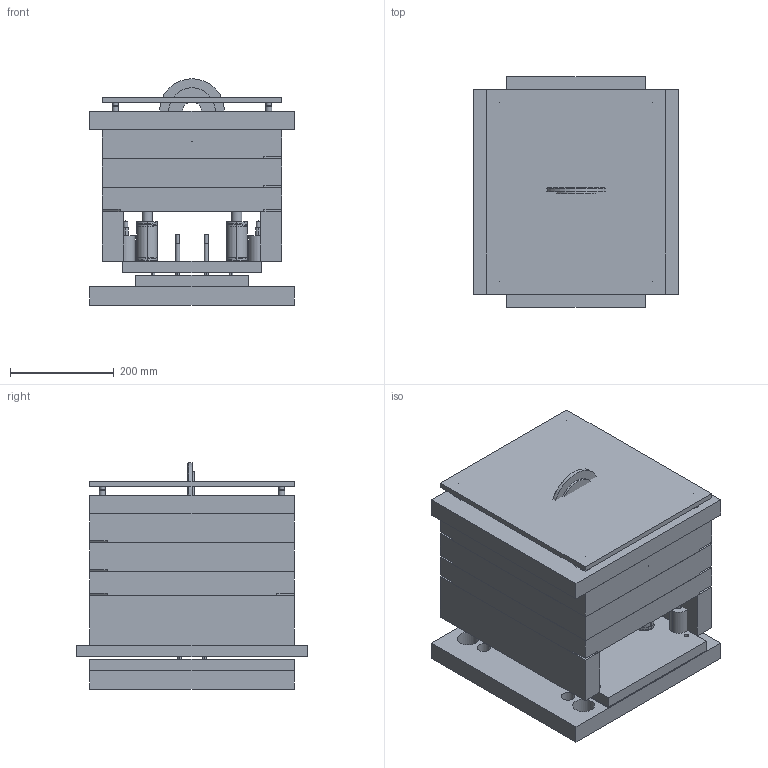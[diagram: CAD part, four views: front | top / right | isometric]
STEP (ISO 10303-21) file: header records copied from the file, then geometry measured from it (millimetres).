
FILE_DESCRIPTION(('Open CASCADE Model'),'2;1');
FILE_NAME('Open CASCADE Shape Model','2026-07-13T21:25:44',('Author'),( 'Open CASCADE'),'Open CASCADE STEP processor 7.9','Open CASCADE 7.9' ,'Unknown');
FILE_SCHEMA(('AUTOMOTIVE_DESIGN { 1 0 10303 214 1 1 1 1 }'));
Length unit declared in the file: millimetre
Products named in the file (76): mold_builder_assembly; Fixed_Half; cavity_plate; clamp_fixed; guide_pin_0; guide_pin_1; guide_pin_2; guide_pin_3; guide_bushing_0; guide_bushing_1; guide_bushing_2; guide_bushing_3; screw_top_0; screw_top_1; screw_top_2; screw_top_3; dowel_pin_0; dowel_pin_1; insulation_plate; sprue_bushing; locating_ring; gate_0; slide_1_K2528; Moving_Half; clamp_moving; support_plate; core_plate; spacer_block; support_pillar_0; support_pillar_1; support_pillar_2; support_pillar_3; screw_bot_0; screw_bot_1; screw_bot_2; screw_bot_3; cooling_channel_0; cooling_channel_1; cooling_channel_2; cooling_channel_3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
Assembly tree (75 placements, depth 3):
  mold_builder_assembly
    Fixed_Half
      cavity_plate
      clamp_fixed
      guide_pin_0
      guide_pin_1
      guide_pin_2
      guide_pin_3
      guide_bushing_0
      guide_bushing_1
      guide_bushing_2
      guide_bushing_3
      screw_top_0
      screw_top_1
      screw_top_2
      screw_top_3
      dowel_pin_0
      dowel_pin_1
      insulation_plate
      sprue_bushing
      locating_ring
      gate_0
      slide_1_K2528
    Moving_Half
      clamp_moving
      support_plate
      core_plate
      spacer_block
      support_pillar_0
      support_pillar_1
      support_pillar_2
      support_pillar_3
      screw_bot_0
      screw_bot_1
      screw_bot_2
      screw_bot_3
      cooling_channel_0
      cooling_channel_1
      cooling_channel_2
      cooling_channel_3
      cooling_channel_4
      cooling_channel_5
      cooling_channel_6
      cooling_channel_7
      cooling_channel_8
      cooling_uturn_0
      cooling_uturn_1
      cooling_uturn_2
      cooling_uturn_3
      cooling_uturn_4
      cooling_uturn_5
      cooling_uturn_6
      cooling_uturn_7
      cooling_inlet
      cooling_outlet
      cooling_oring_inlet
      cooling_oring_outlet
    Ejection
      ejector_plate
      ejector_retainer
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Bounding box: 396 x 446 x 437.5 mm (x, y, z)
Volume: 42225782.9 mm3; surface area: 3641108.6 mm2
Topology: 121 solids, 121 shells, 1630 faces, 3614 edges, 2280 vertices
Faces by surface type: plane 729, cylinder 510, cone 248, bspline 69, torus 62, sphere 12
Full cylindrical faces by diameter (mm): 4 x5, 8 x17, 8.5 x4, 9.728 x2, 10.2 x8, 11.4 x2, 11.98 x8, 12 x18, 13.5 x8, 14 x8, 15 x2, 16 x1, 16.6 x4, 18 x20, 20 x12, 20.1 x12, 24.1 x4, 26 x8, 28 x10, 42 x4, 48 x4, 90 x1, 125 x1
Entity records: 130888 total; most frequent: CARTESIAN_POINT 58932, DIRECTION 13051, ORIENTED_EDGE 7126, PCURVE 7126, DEFINITIONAL_REPRESENTATION 7126, LINE 6143, VECTOR 6143, EDGE_CURVE 3563
